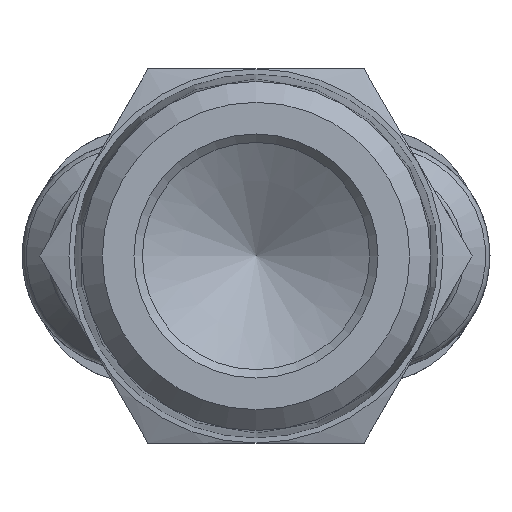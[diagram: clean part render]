
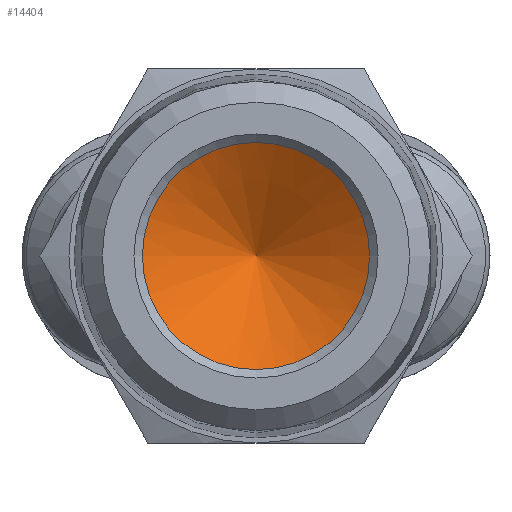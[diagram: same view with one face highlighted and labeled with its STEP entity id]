
A CAD part, front view. The second image highlights one B-rep face of the part: STEP entity #14404.
In plain terms, the highlighted conical face has half-angle 59 degrees and reference radius 3.375 mm.
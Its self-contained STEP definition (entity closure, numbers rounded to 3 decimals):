
#14284=CARTESIAN_POINT('',(0.0,16.,6.75));
#14285=VERTEX_POINT('',#14284);
#14286=CARTESIAN_POINT('',(0.0,16.0,0.));
#14287=DIRECTION('',(0.0,-1.0,0.0));
#14288=DIRECTION('',(0.0,0.0,1.0));
#14289=AXIS2_PLACEMENT_3D('',#14286,#14287,#14288);
#14290=CIRCLE('',#14289,6.75);
#14291=EDGE_CURVE('',#14285,#14285,#14290,.T.);
#14396=CARTESIAN_POINT('',(0.0,18.028,0.));
#14397=DIRECTION('',(0.0,-1.0,0.));
#14398=DIRECTION('',(0.0,0.0,1.0));
#14399=AXIS2_PLACEMENT_3D('',#14396,#14397,#14398);
#14400=CONICAL_SURFACE('',#14399,3.375,59.);
#14401=ORIENTED_EDGE('',*,*,#14291,.T.);
#14402=EDGE_LOOP('',(#14401));
#14403=FACE_OUTER_BOUND('',#14402,.T.);
#14404=ADVANCED_FACE('',(#14403),#14400,.F.);
